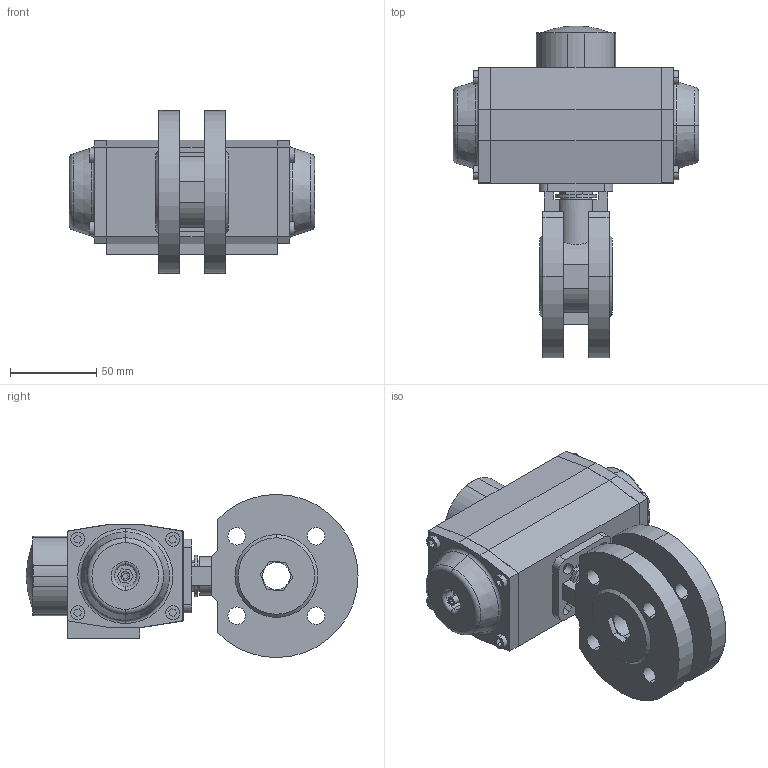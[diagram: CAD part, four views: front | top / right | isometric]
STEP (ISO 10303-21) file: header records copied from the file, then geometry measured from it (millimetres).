
FILE_DESCRIPTION (( 'STEP AP214' ), '1' );
FILE_NAME ('S15D DN15 + AP1.STEP', '2012-04-24T08:19:49', ( 'Jan' ), ( '' ), 'SwSTEP 2.0', 'SolidWorks 2011', '' );
FILE_SCHEMA (( 'AUTOMOTIVE_DESIGN' ));
Length unit declared in the file: millimetre
Products named in the file (3): S15D DN15 + AP1; S15D KK DN15 PN16; AP1_Default<As Machined>
Assembly tree (2 placements, depth 2):
  S15D DN15 + AP1
    AP1_Default<As Machined>
    S15D KK DN15 PN16
Bounding box: 142 x 192.24 x 94.5 mm (x, y, z)
Volume: 753261.6 mm3; surface area: 104064.1 mm2
Topology: 12 solids, 12 shells, 443 faces, 1111 edges, 707 vertices
Faces by surface type: plane 255, cylinder 130, cone 44, torus 12, sphere 2
Entity records: 14472 total; most frequent: CARTESIAN_POINT 2277, DIRECTION 2277, ORIENTED_EDGE 2150, EDGE_CURVE 1075, LINE 763, VECTOR 763, AXIS2_PLACEMENT_3D 757, VERTEX_POINT 707
